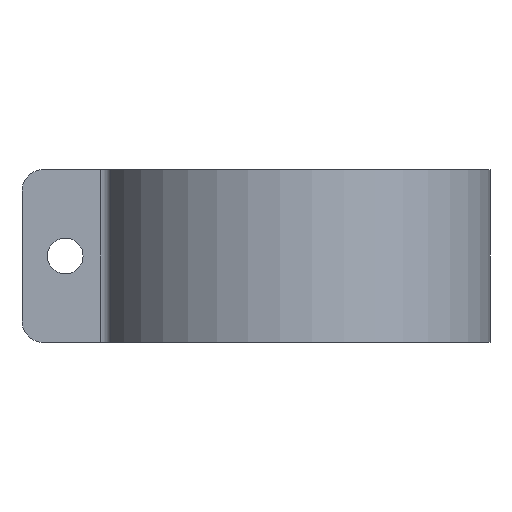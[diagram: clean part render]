
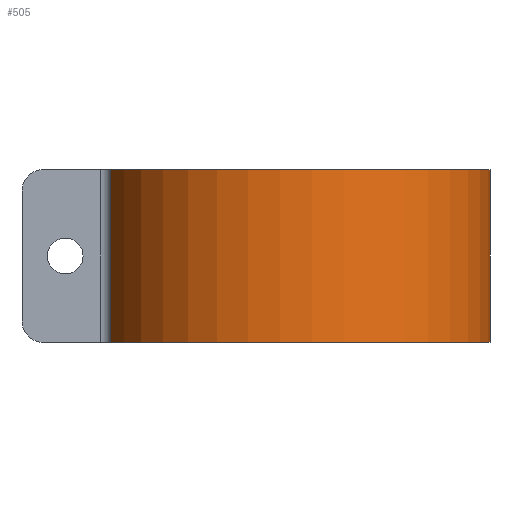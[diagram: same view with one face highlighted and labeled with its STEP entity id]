
A CAD part, left-side view. The second image highlights one B-rep face of the part: STEP entity #505.
In plain terms, the highlighted cylindrical face has radius 18 mm (diameter 36 mm), a partial arc.
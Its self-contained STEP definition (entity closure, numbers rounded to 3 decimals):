
#49=FACE_OUTER_BOUND('',#79,.T.);
#79=EDGE_LOOP('',(#407,#408,#409,#410));
#135=LINE('',#846,#176);
#137=LINE('',#849,#178);
#176=VECTOR('',#679,10.);
#178=VECTOR('',#683,10.);
#197=CIRCLE('',#537,18.);
#206=CIRCLE('',#550,18.);
#235=VERTEX_POINT('',#779);
#236=VERTEX_POINT('',#781);
#250=VERTEX_POINT('',#817);
#251=VERTEX_POINT('',#819);
#287=EDGE_CURVE('',#235,#236,#197,.T.);
#306=EDGE_CURVE('',#250,#251,#206,.T.);
#320=EDGE_CURVE('',#236,#250,#135,.T.);
#322=EDGE_CURVE('',#251,#235,#137,.T.);
#407=ORIENTED_EDGE('',*,*,#320,.F.);
#408=ORIENTED_EDGE('',*,*,#287,.F.);
#409=ORIENTED_EDGE('',*,*,#322,.F.);
#410=ORIENTED_EDGE('',*,*,#306,.F.);
#486=CYLINDRICAL_SURFACE('',#559,18.);
#505=ADVANCED_FACE('',(#49),#486,.T.);
#537=AXIS2_PLACEMENT_3D('',#782,#618,#619);
#550=AXIS2_PLACEMENT_3D('',#820,#654,#655);
#559=AXIS2_PLACEMENT_3D('',#848,#681,#682);
#618=DIRECTION('center_axis',(0.,0.,-1.));
#619=DIRECTION('ref_axis',(1.,0.,0.));
#654=DIRECTION('center_axis',(0.,0.,1.));
#655=DIRECTION('ref_axis',(1.,0.,0.));
#679=DIRECTION('',(0.,0.,1.));
#681=DIRECTION('center_axis',(0.,0.,1.));
#682=DIRECTION('ref_axis',(1.,0.,0.));
#683=DIRECTION('',(0.,0.,-1.));
#779=CARTESIAN_POINT('',(8.889,-15.652,-8.));
#781=CARTESIAN_POINT('',(-5.684,17.079,-8.));
#782=CARTESIAN_POINT('Origin',(0.,0.,-8.));
#817=CARTESIAN_POINT('',(-5.684,17.079,8.));
#819=CARTESIAN_POINT('',(8.889,-15.652,8.));
#820=CARTESIAN_POINT('Origin',(0.,0.,8.));
#846=CARTESIAN_POINT('',(-5.684,17.079,0.));
#848=CARTESIAN_POINT('Origin',(0.,0.,0.));
#849=CARTESIAN_POINT('',(8.889,-15.652,0.));
